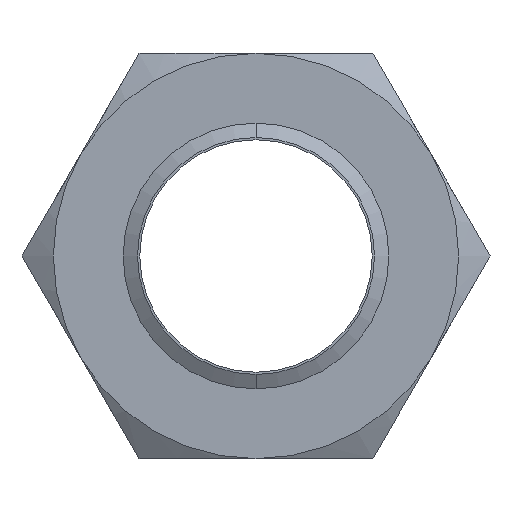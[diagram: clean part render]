
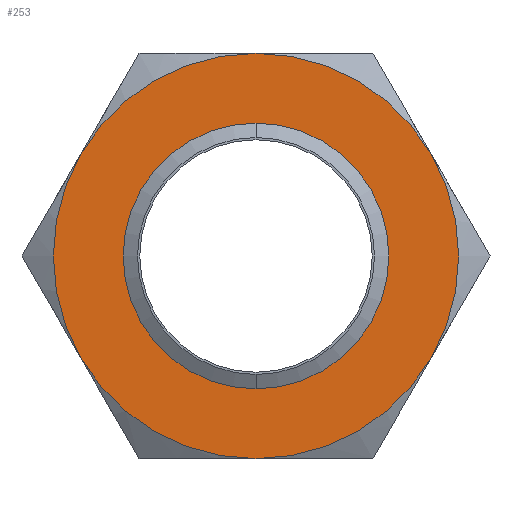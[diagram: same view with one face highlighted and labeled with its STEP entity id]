
A CAD part, front view. The second image highlights one B-rep face of the part: STEP entity #253.
In plain terms, the highlighted planar face has unit normal (0, -1, 0).
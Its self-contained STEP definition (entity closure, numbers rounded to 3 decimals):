
#153 = VERTEX_POINT ( 'NONE', #752 ) ;
#154 = VERTEX_POINT ( 'NONE', #751 ) ;
#158 = EDGE_CURVE ( 'NONE', #154, #153, #750, .T. ) ;
#246 = VERTEX_POINT ( 'NONE', #885 ) ;
#247 = ORIENTED_EDGE ( 'NONE', *, *, #248, .F. ) ;
#248 = EDGE_CURVE ( 'NONE', #246, #258, #884, .T. ) ;
#249 = EDGE_LOOP ( 'NONE', ( #257, #247, #2787, #2744, #2746, #2729 ) ) ;
#253 = ADVANCED_FACE ( 'NONE', ( #936, #935 ), #934, .F. ) ;
#256 = VERTEX_POINT ( 'NONE', #924 ) ;
#257 = ORIENTED_EDGE ( 'NONE', *, *, #261, .F. ) ;
#258 = VERTEX_POINT ( 'NONE', #923 ) ;
#261 = EDGE_CURVE ( 'NONE', #258, #256, #916, .T. ) ;
#746 = DIRECTION ( 'NONE',  ( 0., 0., -1. ) ) ;
#747 = DIRECTION ( 'NONE',  ( 0., -1., 0. ) ) ;
#748 = CARTESIAN_POINT ( 'NONE',  ( 0., 0., 0. ) ) ;
#749 = AXIS2_PLACEMENT_3D ( 'NONE', #748, #747, #746 ) ;
#750 = CIRCLE ( 'NONE', #749, 45.301 ) ;
#751 = CARTESIAN_POINT ( 'NONE',  ( 0., 0., -45.301 ) ) ;
#752 = CARTESIAN_POINT ( 'NONE',  ( 0., 0., 45.301 ) ) ;
#880 = DIRECTION ( 'NONE',  ( 0., 0., 1. ) ) ;
#881 = DIRECTION ( 'NONE',  ( 0., 1., 0. ) ) ;
#882 = CARTESIAN_POINT ( 'NONE',  ( 0., 0., 0. ) ) ;
#883 = AXIS2_PLACEMENT_3D ( 'NONE', #882, #881, #880 ) ;
#884 = CIRCLE ( 'NONE', #883, 77.5 ) ;
#885 = CARTESIAN_POINT ( 'NONE',  ( -67.117, 0., 38.75 ) ) ;
#913 = DIRECTION ( 'NONE',  ( 0., 0., 1. ) ) ;
#914 = DIRECTION ( 'NONE',  ( 0., 1., 0. ) ) ;
#915 = AXIS2_PLACEMENT_3D ( 'NONE', #922, #914, #913 ) ;
#916 = CIRCLE ( 'NONE', #915, 77.5 ) ;
#922 = CARTESIAN_POINT ( 'NONE',  ( 0., 0., 0. ) ) ;
#923 = CARTESIAN_POINT ( 'NONE',  ( 0., 0., 77.5 ) ) ;
#924 = CARTESIAN_POINT ( 'NONE',  ( 67.117, 0., 38.75 ) ) ;
#929 = DIRECTION ( 'NONE',  ( 0., 0., 1. ) ) ;
#930 = DIRECTION ( 'NONE',  ( 0., 1., 0. ) ) ;
#932 = CARTESIAN_POINT ( 'NONE',  ( 44.745, 0., -77.5 ) ) ;
#933 = AXIS2_PLACEMENT_3D ( 'NONE', #932, #930, #929 ) ;
#934 = PLANE ( 'NONE',  #933 ) ;
#935 = FACE_BOUND ( 'NONE', #2722, .T. ) ;
#936 = FACE_OUTER_BOUND ( 'NONE', #249, .T. ) ;
#1611 = CARTESIAN_POINT ( 'NONE',  ( -67.117, 0., -38.75 ) ) ;
#1658 = DIRECTION ( 'NONE',  ( 0., 0., 1. ) ) ;
#1659 = DIRECTION ( 'NONE',  ( 0., 1., 0. ) ) ;
#1660 = AXIS2_PLACEMENT_3D ( 'NONE', #1672, #1659, #1658 ) ;
#1661 = CIRCLE ( 'NONE', #1660, 77.5 ) ;
#1672 = CARTESIAN_POINT ( 'NONE',  ( 0., 0., 0. ) ) ;
#1673 = CARTESIAN_POINT ( 'NONE',  ( 67.117, 0., -38.75 ) ) ;
#1676 = DIRECTION ( 'NONE',  ( 0., 0., -1. ) ) ;
#1677 = DIRECTION ( 'NONE',  ( 0., -1., 0. ) ) ;
#1678 = CARTESIAN_POINT ( 'NONE',  ( 0., 0., 0. ) ) ;
#1679 = AXIS2_PLACEMENT_3D ( 'NONE', #1678, #1677, #1676 ) ;
#1680 = CIRCLE ( 'NONE', #1679, 45.301 ) ;
#1681 = DIRECTION ( 'NONE',  ( 0., 0., 1. ) ) ;
#1682 = DIRECTION ( 'NONE',  ( 0., 1., 0. ) ) ;
#1683 = CARTESIAN_POINT ( 'NONE',  ( 0., 0., 0. ) ) ;
#1684 = AXIS2_PLACEMENT_3D ( 'NONE', #1683, #1682, #1681 ) ;
#1685 = CIRCLE ( 'NONE', #1684, 77.5 ) ;
#1689 = CARTESIAN_POINT ( 'NONE',  ( 0., 0., -77.5 ) ) ;
#1731 = DIRECTION ( 'NONE',  ( 0., 0., 1. ) ) ;
#1732 = DIRECTION ( 'NONE',  ( 0., 1., 0. ) ) ;
#1733 = CARTESIAN_POINT ( 'NONE',  ( 0., 0., 0. ) ) ;
#1734 = AXIS2_PLACEMENT_3D ( 'NONE', #1733, #1732, #1731 ) ;
#1735 = CIRCLE ( 'NONE', #1734, 77.5 ) ;
#1746 = DIRECTION ( 'NONE',  ( 0., 0., 1. ) ) ;
#1747 = DIRECTION ( 'NONE',  ( 0., 1., 0. ) ) ;
#1748 = CARTESIAN_POINT ( 'NONE',  ( 0., 0., 0. ) ) ;
#1749 = AXIS2_PLACEMENT_3D ( 'NONE', #1748, #1747, #1746 ) ;
#1750 = CIRCLE ( 'NONE', #1749, 77.5 ) ;
#2703 = VERTEX_POINT ( 'NONE', #1611 ) ;
#2721 = ORIENTED_EDGE ( 'NONE', *, *, #2724, .F. ) ;
#2722 = EDGE_LOOP ( 'NONE', ( #2723, #2721 ) ) ;
#2723 = ORIENTED_EDGE ( 'NONE', *, *, #158, .F. ) ;
#2724 = EDGE_CURVE ( 'NONE', #153, #154, #1680, .T. ) ;
#2728 = EDGE_CURVE ( 'NONE', #256, #2731, #1661, .T. ) ;
#2729 = ORIENTED_EDGE ( 'NONE', *, *, #2728, .F. ) ;
#2731 = VERTEX_POINT ( 'NONE', #1673 ) ;
#2740 = VERTEX_POINT ( 'NONE', #1689 ) ;
#2742 = EDGE_CURVE ( 'NONE', #2740, #2703, #1685, .T. ) ;
#2743 = EDGE_CURVE ( 'NONE', #2731, #2740, #1735, .T. ) ;
#2744 = ORIENTED_EDGE ( 'NONE', *, *, #2742, .F. ) ;
#2746 = ORIENTED_EDGE ( 'NONE', *, *, #2743, .F. ) ;
#2764 = EDGE_CURVE ( 'NONE', #2703, #246, #1750, .T. ) ;
#2787 = ORIENTED_EDGE ( 'NONE', *, *, #2764, .F. ) ;
